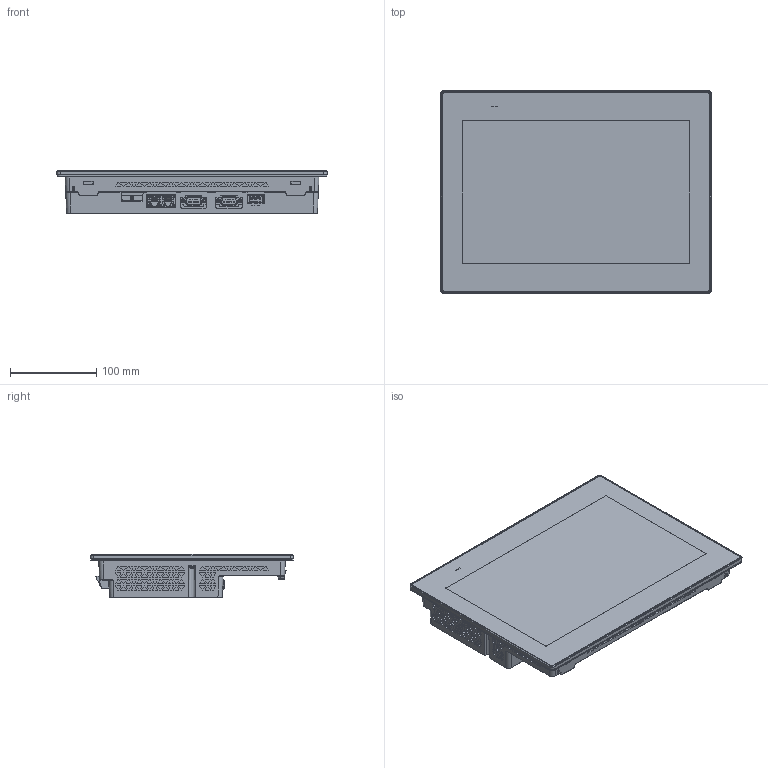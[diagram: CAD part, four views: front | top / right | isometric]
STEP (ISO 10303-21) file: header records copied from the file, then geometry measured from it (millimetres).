
FILE_DESCRIPTION((''),'2;1');
FILE_NAME('QGH7633701_PART_1_1_1_1','2019-04-12T14:15:35',('SESA409019'),('Schneider-Electric'),'CREO PARAMETRIC BY PTC INC, 2018300','CREO PARAMETRIC BY PTC INC, 2018300','');
FILE_SCHEMA(('CONFIG_CONTROL_DESIGN'));
Products named in the file (1): QGH7633701_PART_1_1_1_1
Bounding box: 313 x 235 x 50 mm (x, y, z)
Volume: 2555909.4 mm3; surface area: 320671.4 mm2
Topology: 1 solids, 10 shells, 7060 faces, 20470 edges, 13879 vertices
Faces by surface type: plane 3548, cylinder 2161, extrusion 924, cone 137, bspline 124, torus 121, sphere 45
Entity records: 250584 total; most frequent: CARTESIAN_POINT 70893, ORIENTED_EDGE 40748, DIRECTION 31721, EDGE_CURVE 20374, VERTEX_POINT 13879, VECTOR 12473, LINE 11549, AXIS2_PLACEMENT_3D 9624
